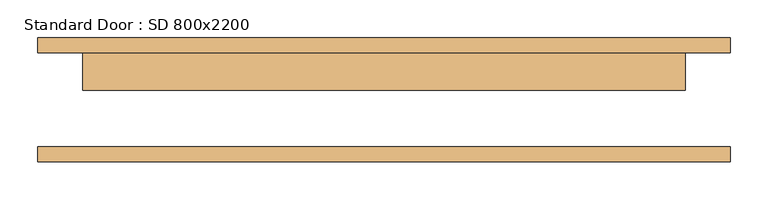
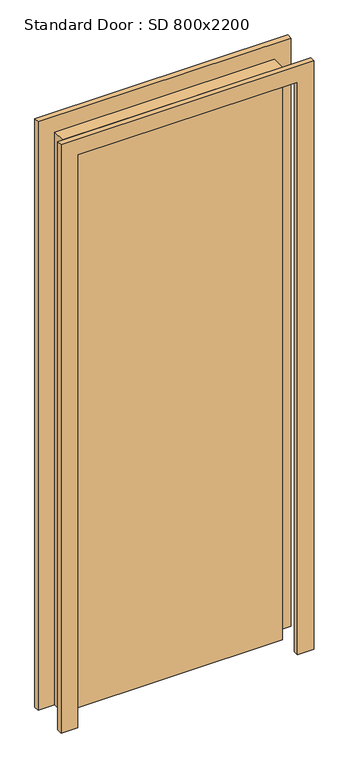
"""IFC4 building model written with IfcOpenShell, lengths in millimetres: door geometry, Standard Door : SD 800x2200."""

from ifc_helpers import new_model, si_unit, frame, origin, origin_with_axes, place, context, project, spatial, polyline, outline, extrude, source, transform, mapped, element, save


def standard_door_sd_800x2200_4337499b(model_context):
    return source(origin(), model_context, "Body", "SweptSolid", [
        extrude(outline(polyline([(2260.0, -460.0), (0.0, -460.0), (0.0, -400.0), (2200.0, -400.0), (2200.0, 400.0), (0.0, 400.0), (0.0, 460.0), (2260.0, 460.0), (2260.0, -460.0)])), frame((0.0, 62.5, 0.0), z_axis=(0.0, 1.0, 0.0), x_axis=(0.0, 0.0, 1.0)), (0.0, 0.0, 1.0), 20.0),
        extrude(outline(polyline([(2260.0, 460.0), (2260.0, -460.0), (0.0, -460.0), (0.0, -400.0), (2200.0, -400.0), (2200.0, 400.0), (0.0, 400.0), (0.0, 460.0), (2260.0, 460.0)])), frame((0.0, -82.5, 0.0), z_axis=(0.0, 1.0, 0.0), x_axis=(0.0, 0.0, 1.0)), (0.0, 0.0, 1.0), 20.0),
        extrude(outline(polyline([(400.0, 12.5), (-400.0, 12.5), (-400.0, 62.5), (400.0, 62.5), (400.0, 12.5)])), origin_with_axes(), (0.0, 0.0, 1.0), 2200.0),
    ])


if __name__ == "__main__":
    model = new_model("IFC4")
    model_context = context("Model", 3, world=origin())
    ifc_project = project(units=[si_unit("LENGTHUNIT", "METRE", prefix="MILLI")], contexts=[model_context])
    site = spatial("IfcSite", under=ifc_project)
    building = spatial("IfcBuilding", under=site)
    placement = place(None, origin())
    standard_door_sd_800x2200_shape = standard_door_sd_800x2200_4337499b(model_context)
    element("IfcDoor", 1, ObjectType="Standard Door : SD 800x2200", at=placement, inside=building, context=model_context, shape_type="MappedRepresentation", body=[
        mapped(standard_door_sd_800x2200_shape, transform((0.0, 0.0, 0.0), x_axis=(1.0, 0.0, 0.0), y_axis=(0.0, 1.0, 0.0), z_axis=(0.0, 0.0, 1.0))),
    ])
    save(model, "model.ifc")
